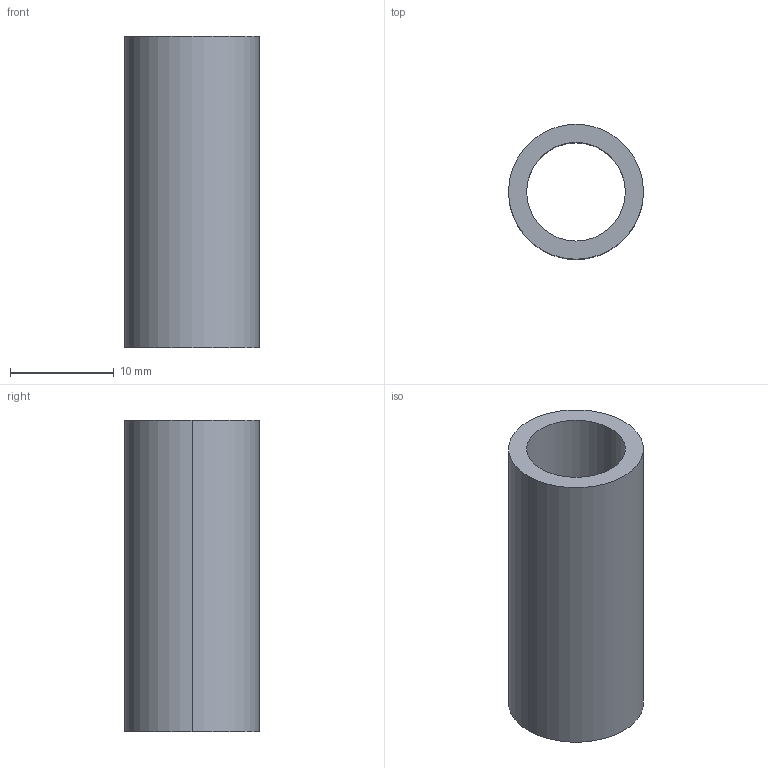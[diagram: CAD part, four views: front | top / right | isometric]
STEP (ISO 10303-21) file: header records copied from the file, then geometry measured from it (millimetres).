
FILE_DESCRIPTION (( 'STEP AP214' ), '1' );
FILE_NAME ('Rohr_Ø13.STEP', '2015-11-23T15:25:40', ( 'HP' ), ( 'Hewlett-Packard Company' ), 'SwSTEP 2.0', 'SolidWorks 2014', '' );
FILE_SCHEMA (( 'AUTOMOTIVE_DESIGN' ));
Length unit declared in the file: millimetre
Products named in the file (1): Rohr_ﾘ13
Bounding box: 13 x 13 x 30 mm (x, y, z)
Volume: 1855.5 mm3; surface area: 2244.3 mm2
Topology: 1 solids, 1 shells, 6 faces, 12 edges, 8 vertices
Faces by surface type: cylinder 4, plane 2
Entity records: 268 total; most frequent: DIRECTION 34, CARTESIAN_POINT 27, ORIENTED_EDGE 24, AXIS2_PLACEMENT_3D 15, EDGE_CURVE 12, UNCERTAINTY_MEASURE_WITH_UNIT 9, CIRCLE 8, FILL_AREA_STYLE_COLOUR 8
